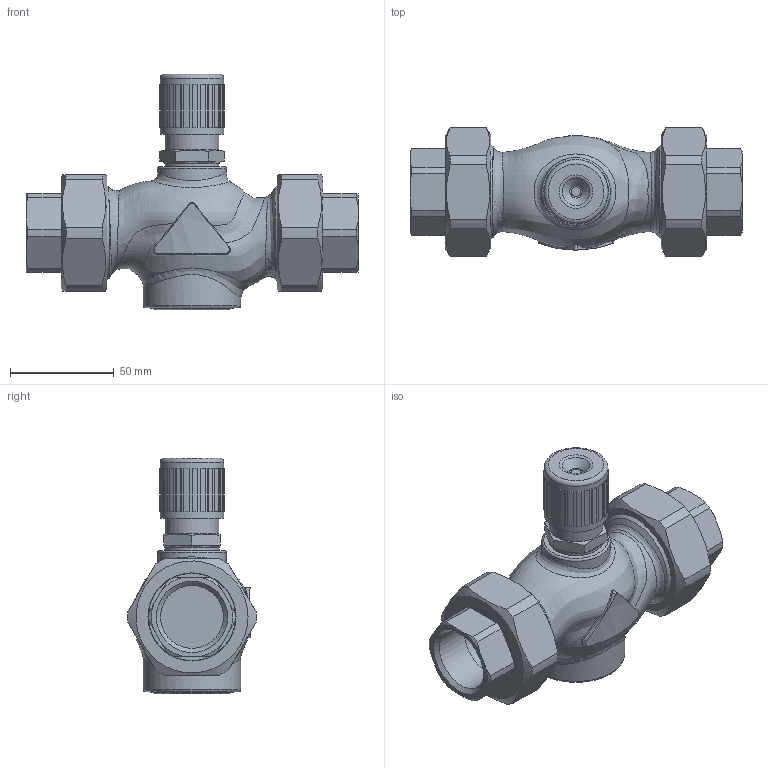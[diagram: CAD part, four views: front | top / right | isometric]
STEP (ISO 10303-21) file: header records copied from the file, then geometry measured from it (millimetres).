
FILE_DESCRIPTION(/* description */ (''),/* implementation_level */ '2;1');
FILE_NAME(/* name */ 'rv111r_dn25_2_T.stp',/* time_stamp */ '2012-02-21T13:08:21+01:00',/* author */ ('KLIMES'),/* organization */ ('LDM'),/* preprocessor_version */ 'ST-DEVELOPER v11',/* originating_system */ 'SIEMENS PLM Software NX 7.0',/* authorisation */ '');
FILE_SCHEMA (('CONFIG_CONTROL_DESIGN'));
Length unit declared in the file: millimetre
Products named in the file (1): klim56BEqbmr
Bounding box: 160 x 61.98 x 113.45 mm (x, y, z)
Volume: 326808.6 mm3; surface area: 69633.2 mm2
Topology: 8 solids, 8 shells, 316 faces, 750 edges, 487 vertices
Faces by surface type: plane 171, cone 63, cylinder 43, bspline 25, torus 14
Full cylindrical faces by diameter (mm): 8 x1, 23.4 x1, 24.117 x1, 26 x1, 26.5 x1, 30.291 x2, 30.8 x1, 33 x5, 40 x1, 42 x2, 42.5 x2, 44 x2, 44.5 x2, 44.845 x2, 47 x1, 47.8 x2
Entity records: 14460 total; most frequent: CARTESIAN_POINT 7558, DIRECTION 1390, ORIENTED_EDGE 1328, EDGE_CURVE 664, AXIS2_PLACEMENT_3D 557, VERTEX_POINT 460, EDGE_LOOP 424, ADVANCED_FACE 316
